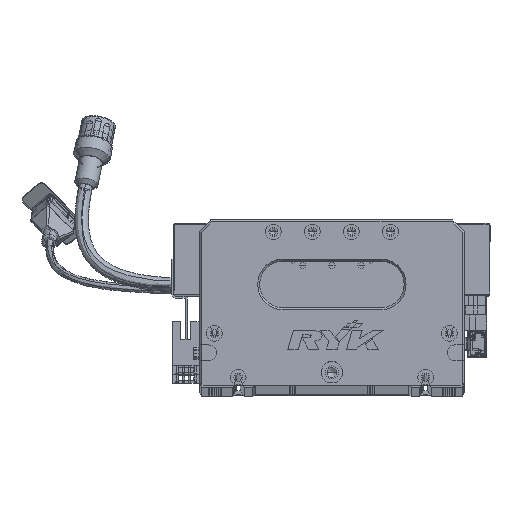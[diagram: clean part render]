
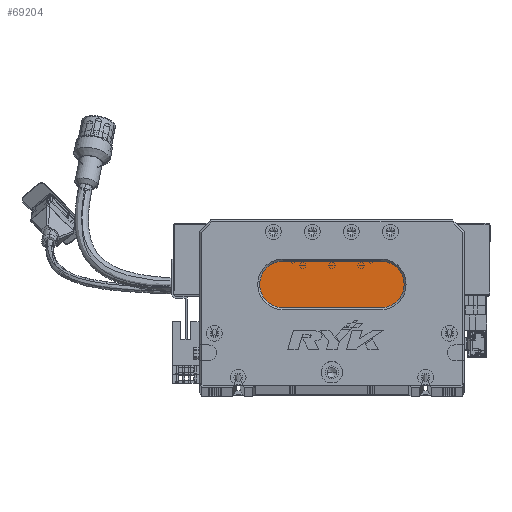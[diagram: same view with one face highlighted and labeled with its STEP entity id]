
A CAD part, top view. The second image highlights one B-rep face of the part: STEP entity #69204.
In plain terms, the highlighted planar face has unit normal (0, 0, 1) as drawn and (0, 0, -1) by its records, which use the part's own axes.
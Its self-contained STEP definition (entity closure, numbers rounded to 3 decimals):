
#1473 = ORIENTED_EDGE ( 'NONE', *, *, #37764, .T. ) ;
#4840 = EDGE_CURVE ( 'NONE', #104442, #34990, #17797, .T. ) ;
#7750 = DIRECTION ( 'NONE',  ( 0., 0., -1. ) ) ;
#8571 = AXIS2_PLACEMENT_3D ( 'NONE', #102547, #9418, #93282 ) ;
#9418 = DIRECTION ( 'NONE',  ( 0., 0., -1. ) ) ;
#12473 = CARTESIAN_POINT ( 'NONE',  ( 93., 40., 13. ) ) ;
#17797 = CIRCLE ( 'NONE', #8571, 12. ) ;
#23243 = CARTESIAN_POINT ( 'NONE',  ( 31., 52., 13. ) ) ;
#23988 = CARTESIAN_POINT ( 'NONE',  ( 43., 40., 13. ) ) ;
#31774 = EDGE_CURVE ( 'NONE', #41166, #48832, #71719, .T. ) ;
#34990 = VERTEX_POINT ( 'NONE', #119076 ) ;
#37764 = EDGE_CURVE ( 'NONE', #48832, #104442, #122085, .T. ) ;
#40055 = VECTOR ( 'NONE', #89419, 1000. ) ;
#41166 = VERTEX_POINT ( 'NONE', #23243 ) ;
#43203 = DIRECTION ( 'NONE',  ( -1., 0., 0. ) ) ;
#48832 = VERTEX_POINT ( 'NONE', #122977 ) ;
#51874 = ORIENTED_EDGE ( 'NONE', *, *, #4840, .T. ) ;
#59020 = VERTEX_POINT ( 'NONE', #23988 ) ;
#59118 = DIRECTION ( 'NONE',  ( -1., 0., 0. ) ) ;
#60385 = AXIS2_PLACEMENT_3D ( 'NONE', #112540, #71186, #81747 ) ;
#62650 = AXIS2_PLACEMENT_3D ( 'NONE', #83763, #115468, #104036 ) ;
#68034 = ORIENTED_EDGE ( 'NONE', *, *, #74163, .T. ) ;
#69204 = ADVANCED_FACE ( 'NONE', ( #108648 ), #122471, .T. ) ;
#69666 = VECTOR ( 'NONE', #43203, 1000. ) ;
#71186 = DIRECTION ( 'NONE',  ( 0., 0., -1. ) ) ;
#71719 = CIRCLE ( 'NONE', #60385, 12. ) ;
#74163 = EDGE_CURVE ( 'NONE', #59020, #41166, #82193, .T. ) ;
#80223 = ORIENTED_EDGE ( 'NONE', *, *, #88568, .T. ) ;
#81747 = DIRECTION ( 'NONE',  ( -1., 0., 0. ) ) ;
#82193 = CIRCLE ( 'NONE', #62650, 12. ) ;
#83763 = CARTESIAN_POINT ( 'NONE',  ( 43., 52., 13. ) ) ;
#88568 = EDGE_CURVE ( 'NONE', #34990, #59020, #89365, .T. ) ;
#89365 = LINE ( 'NONE', #12473, #69666 ) ;
#89419 = DIRECTION ( 'NONE',  ( 1., 0., 0. ) ) ;
#90275 = CARTESIAN_POINT ( 'NONE',  ( 93., 52., 13. ) ) ;
#92067 = EDGE_LOOP ( 'NONE', ( #51874, #80223, #68034, #117073, #1473 ) ) ;
#93282 = DIRECTION ( 'NONE',  ( -1., 0., 0. ) ) ;
#97444 = AXIS2_PLACEMENT_3D ( 'NONE', #90275, #7750, #59118 ) ;
#102547 = CARTESIAN_POINT ( 'NONE',  ( 93., 52., 13. ) ) ;
#104036 = DIRECTION ( 'NONE',  ( -1., 0., 0. ) ) ;
#104442 = VERTEX_POINT ( 'NONE', #106896 ) ;
#106896 = CARTESIAN_POINT ( 'NONE',  ( 93., 64., 13. ) ) ;
#108648 = FACE_OUTER_BOUND ( 'NONE', #92067, .T. ) ;
#112540 = CARTESIAN_POINT ( 'NONE',  ( 43., 52., 13. ) ) ;
#115468 = DIRECTION ( 'NONE',  ( 0., 0., -1. ) ) ;
#117073 = ORIENTED_EDGE ( 'NONE', *, *, #31774, .T. ) ;
#119076 = CARTESIAN_POINT ( 'NONE',  ( 93., 40., 13. ) ) ;
#122085 = LINE ( 'NONE', #129945, #40055 ) ;
#122471 = PLANE ( 'NONE',  #97444 ) ;
#122977 = CARTESIAN_POINT ( 'NONE',  ( 43., 64., 13. ) ) ;
#129945 = CARTESIAN_POINT ( 'NONE',  ( 93., 64., 13. ) ) ;
